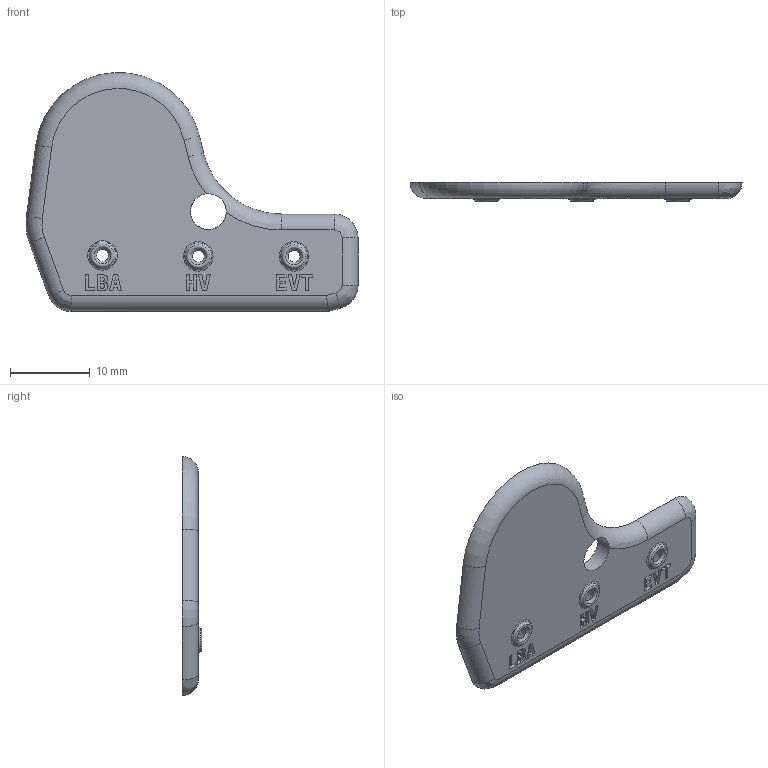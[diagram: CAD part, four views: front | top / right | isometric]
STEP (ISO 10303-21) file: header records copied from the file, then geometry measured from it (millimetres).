
FILE_DESCRIPTION(/* description */ (''),/* implementation_level */ '2;1');
FILE_NAME(/* name */ 'Faceplate.step',/* time_stamp */ '2024-08-02T08:17:34-07:00',/* author */ (''),/* organization */ (''),/* preprocessor_version */ 'ST-DEVELOPER v20',/* originating_system */ 'Autodesk Translation Framework v13.14.0.145',/* authorisation */ '');
FILE_SCHEMA (('AUTOMOTIVE_DESIGN { 1 0 10303 214 3 1 1 }'));
Length unit declared in the file: millimetre
Products named in the file (1): Cover Faceplate
Bounding box: 41.6 x 2.4 x 29.92 mm (x, y, z)
Volume: 1496.1 mm3; surface area: 1860.3 mm2
Topology: 1 solids, 1 shells, 144 faces, 393 edges, 261 vertices
Faces by surface type: plane 85, bspline 33, torus 9, cone 9, cylinder 8
Full cylindrical faces by diameter (mm): 4.5 x1
Entity records: 4887 total; most frequent: CARTESIAN_POINT 1346, ORIENTED_EDGE 786, DIRECTION 618, EDGE_CURVE 393, LINE 270, VECTOR 270, VERTEX_POINT 261, AXIS2_PLACEMENT_3D 174
